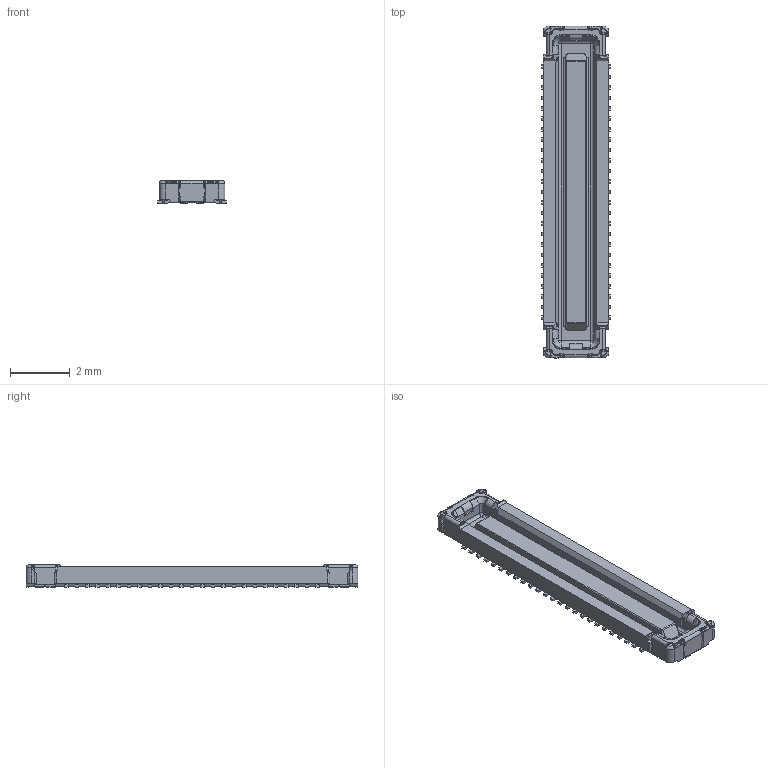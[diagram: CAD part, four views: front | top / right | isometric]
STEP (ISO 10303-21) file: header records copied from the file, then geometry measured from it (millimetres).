
FILE_DESCRIPTION (( 'STEP AP214' ), '1' );
FILE_NAME ('24_5863_050_104_829_+_.STEP', '2017-02-13T05:51:05', ( '' ), ( '' ), 'SwSTEP 2.0', 'SolidWorks 2014', '' );
FILE_SCHEMA (( 'AUTOMOTIVE_DESIGN' ));
Length unit declared in the file: millimetre
Products named in the file (1): 24_5863_050_104_829_+_
Bounding box: 2.3 x 11.1 x 0.76 mm (x, y, z)
Volume: 11.1 mm3; surface area: 99.4 mm2
Topology: 1 solids, 1 shells, 1369 faces, 3874 edges, 2480 vertices
Faces by surface type: plane 831, cylinder 434, torus 60, bspline 36, sphere 4, cone 4
Entity records: 55599 total; most frequent: CARTESIAN_POINT 9958, ORIENTED_EDGE 7708, DIRECTION 7066, EDGE_CURVE 3854, VECTOR 2702, LINE 2702, VERTEX_POINT 2480, AXIS2_PLACEMENT_3D 2182
